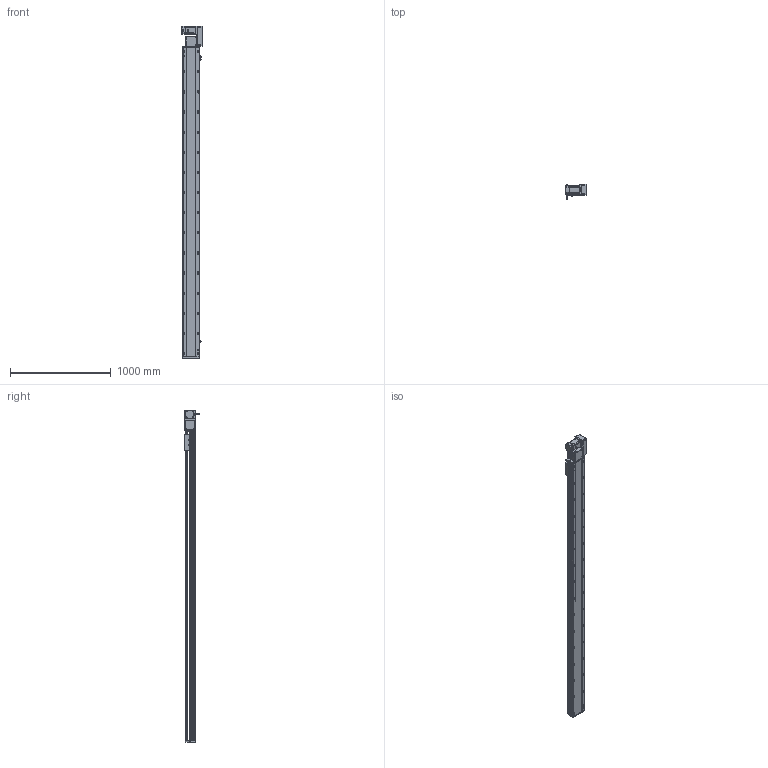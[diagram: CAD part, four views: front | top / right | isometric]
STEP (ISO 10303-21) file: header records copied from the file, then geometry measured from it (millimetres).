
FILE_DESCRIPTION (( 'STEP AP214' ), '1' );
FILE_NAME ('RTB17S-XX-2800-R-M75-C4.STEP', '2025-12-12T01:49:19', ( '' ), ( '' ), 'SwSTEP 2.0', 'SolidWorks 2018', '' );
FILE_SCHEMA (( 'AUTOMOTIVE_DESIGN' ));
Length unit declared in the file: millimetre
Products named in the file (15): 750W萇儂^RTB17S-XX-XX-R-M75-C4; RTB17S-L-001-耜醱啣^RTB17S-XX-XX-R-M75-C4; RTB22S-GY-008-M75--萇儂啣^RTB17S-R-々湍釱蚾饜-750W_RTB17S-XX-XX-R-M75-C4; RTB17S-R-々湍釱蚾饜-750W^RTB17S-XX-XX-R-M75-C4; RTB17S-XX-2800-R-M75-C4; RTB22S-GY-017P^RTB17S-R-々湍釱蚾饜-750W_RTB17S-XX-XX-R-M75-C4; RTB17S-L-014-T20-P75--々湍釱^RTB17S-R-々湍釱蚾饜-750W_RTB17S-XX-XX-R-M75-C4; RTB22S-GY-018P^RTB17S-R-々湍釱蚾饜-750W_RTB17S-XX-XX-R-M75-C4; RTH13-BL-012覜茼え俋离^RTB17S-賑釱_RTB17S-XX-XX-R-M75-C4; RTB17S-賑釱^RTB17S-XX-XX-R-M75-C4; RTB17S-L-007奻裔^RTB17S-XX-XX-R-M75-C4; EE672^RTB17S-XX-XX-R-M75-C4; RTB22S-GY-005P^RTB17S-R-々湍釱蚾饜-750W_RTB17S-XX-XX-R-M75-C4; RTB17-R-011菁釱^RTB17S-XX-XX-R-M75-C4; RTB17S-L-004-賑釱^RTB17S-賑釱_RTB17S-XX-XX-R-M75-C4
Assembly tree (17 placements, depth 3):
  RTB17S-XX-2800-R-M75-C4
    RTB17-R-011菁釱^RTB17S-XX-XX-R-M75-C4
    EE672^RTB17S-XX-XX-R-M75-C4  x3
    RTB17S-L-001-耜醱啣^RTB17S-XX-XX-R-M75-C4
    RTB17S-賑釱^RTB17S-XX-XX-R-M75-C4
      RTB17S-L-004-賑釱^RTB17S-賑釱_RTB17S-XX-XX-R-M75-C4
      RTH13-BL-012覜茼え俋离^RTB17S-賑釱_RTB17S-XX-XX-R-M75-C4
    RTB17S-L-007奻裔^RTB17S-XX-XX-R-M75-C4
    750W萇儂^RTB17S-XX-XX-R-M75-C4
    RTB17S-R-々湍釱蚾饜-750W^RTB17S-XX-XX-R-M75-C4
      RTB17S-L-014-T20-P75--々湍釱^RTB17S-R-々湍釱蚾饜-750W_RTB17S-XX-XX-R-M75-C4
      RTB22S-GY-005P^RTB17S-R-々湍釱蚾饜-750W_RTB17S-XX-XX-R-M75-C4
      RTB22S-GY-017P^RTB17S-R-々湍釱蚾饜-750W_RTB17S-XX-XX-R-M75-C4  x2
      RTB22S-GY-008-M75--萇儂啣^RTB17S-R-々湍釱蚾饜-750W_RTB17S-XX-XX-R-M75-C4
      RTB22S-GY-018P^RTB17S-R-々湍釱蚾饜-750W_RTB17S-XX-XX-R-M75-C4
Bounding box: 207.4 x 152.7 x 3299 mm (x, y, z)
Volume: 23455846.1 mm3; surface area: 4281012.3 mm2
Topology: 17 solids, 17 shells, 2233 faces, 6268 edges, 4058 vertices
Faces by surface type: plane 988, cylinder 829, bspline 294, cone 110, sphere 8, torus 4
Entity records: 65014 total; most frequent: CARTESIAN_POINT 19332, ORIENTED_EDGE 9380, DIRECTION 8672, EDGE_CURVE 4690, AXIS2_PLACEMENT_3D 3078, VERTEX_POINT 3062, LINE 2516, VECTOR 2516
